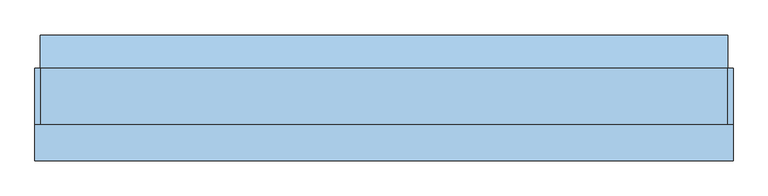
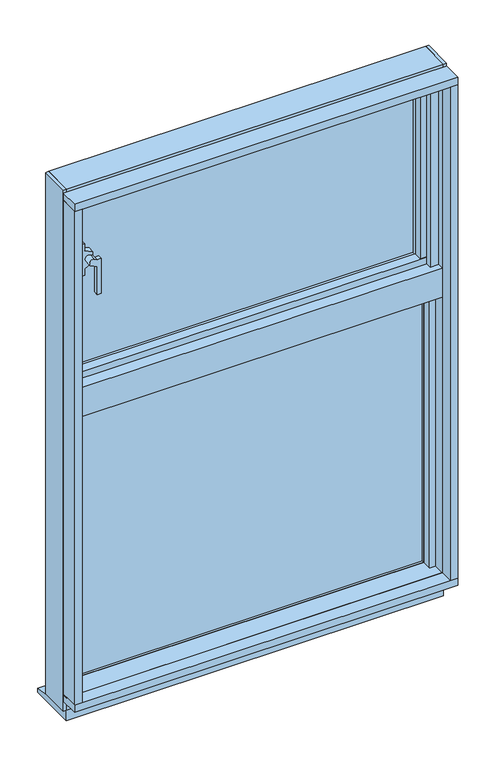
"""IFC4 building model written with IfcOpenShell, lengths in millimetres: window geometry, FNSⅡ100R_非防火_RC枠_段窓 : FIX/FIX_単."""

from ifc_helpers import new_model, si_unit, frame, origin, place, context, project, spatial, polyline, circle_curve, outline, extrude, faceted_brep, source, transform, mapped, element, save
from ifc_brep_helpers import plane_surface, cylinder_surface, advanced_brep


def window_3286e7ac(model_context):
    return source(origin(), model_context, "Body", "SolidModel", [
        advanced_brep(
        [(-532.2217924, -43.25, 2340.1128987), (-522.5780089, -43.25, 2359.8870044), (-522.5780089, -18.75, 2359.8870044), (-532.2217924, -18.75, 2340.1128987), (-513.0, -43.25, 2330.7385568), (-513.0, -18.75, 2330.7385568), (-513.0, -28.273, 2330.7385568), (-513.0, -18.75, 2355.2157929), (-513.0, -28.273, 2355.2157929), (-513.0, -43.25, 2235.0), (-499.9, -43.25, 2235.0), (-499.9, -43.25, 2355.1670227), (-513.0, -43.25, 2355.1670227), (-499.9, -28.273, 2355.1670227), (-499.9, -28.273, 2235.0), (-513.0, -28.273, 2235.0)],
        [
            (0, 1, circle_curve(frame((-527.3999338, -43.25, 2349.9999677), z_axis=(0.0, 1.0, 0.0), x_axis=(1.0, 0.0, 0.0)), 11.0002024)),
            (1, 2),
            (2, 3, circle_curve(frame((-527.3999338, -18.75, 2349.9999677), z_axis=(0.0, -1.0, 0.0), x_axis=(1.0, 0.0, 0.0)), 11.0002024)),
            (3, 0),
            (4, 0),
            (3, 5),
            (5, 6),
            (6, 4),
            (5, 7),
            (7, 8),
            (8, 6),
            (4, 9),
            (9, 10),
            (10, 11),
            (11, 12),
            (12, 1),
            (2, 7),
            (12, 8),
            (13, 14),
            (14, 15),
            (15, 6),
            (8, 13),
            (15, 9),
            (14, 10),
            (13, 11),
        ],
        [
            cylinder_surface(frame((-527.3999338, -18.75, 2349.9999677), z_axis=(0.0, -1.0, 0.0), x_axis=(1.0, 0.0, 0.0)), 11.0002024),
            plane_surface(frame((-532.2217924, -43.25, 2340.1128987), z_axis=(-0.4383427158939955, 0.0, -0.8988079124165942), x_axis=(0.0, 1.0, 0.0))),
            plane_surface(frame((-513.0, -43.25, 2330.7385568), z_axis=(1.0, 0.0, 0.0), x_axis=(0.0, 1.0, 0.0))),
            plane_surface(frame((-516.3997314, -43.25, 2349.9999677), z_axis=(0.0, -1.0, 0.0), x_axis=(0.0, 0.0, 1.0))),
            plane_surface(frame((-516.3997314, -18.75, 2349.9999677), z_axis=(0.0, 1.0, 0.0), x_axis=(0.0, 0.0, -1.0))),
            plane_surface(frame((-513.0, -43.25, 2355.2157929), z_axis=(0.43834873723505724, 0.0, 0.8988049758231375), x_axis=(0.0, 1.0, 0.0))),
            plane_surface(frame((-512.9, -28.273, 2355.1670227), z_axis=(0.0, 1.0, 0.0), x_axis=(1.0, 0.0, 0.0))),
            plane_surface(frame((-513.0, -43.25, 2355.1670227), z_axis=(-1.0, 0.0, 0.0), x_axis=(0.0, 1.0, 0.0))),
            plane_surface(frame((-513.0, -43.25, 2235.0), z_axis=(0.0, 0.0, -1.0), x_axis=(0.0, 1.0, 0.0))),
            plane_surface(frame((-499.9, -43.25, 2235.0), z_axis=(1.0, 0.0, 0.0), x_axis=(0.0, 1.0, 0.0))),
            plane_surface(frame((-499.9, -43.25, 2355.1670227), z_axis=(0.0, 0.0, 1.0), x_axis=(0.0, 1.0, 0.0))),
        ],
        [
            (0, [[1, 2, 3, 4]]),
            (1, [[5, -4, 6, 7, 8]]),
            (2, [[9, 10, 11, -7]]),
            (3, [[-1, -5, 12, 13, 14, 15, 16]]),
            (4, [[17, -9, -6, -3]]),
            (5, [[-16, 18, -10, -17, -2]]),
            (6, [[19, 20, 21, -11, 22]]),
            (7, [[23, -12, -8, -21]]),
            (8, [[-13, -23, -20, 24]]),
            (9, [[-14, -24, -19, 25]]),
            (10, [[-15, -25, -22, -18]]),
        ],
    ),
        extrude(outline(polyline([(2404.0, -553.0), (2296.0, -553.0), (2296.0, -540.0), (2318.8197636, -540.0), (2332.0649514, -513.0), (2367.9350486, -513.0), (2381.1802364, -540.0), (2404.0, -540.0), (2404.0, -553.0)])), frame((0.0, -18.75, 0.0), z_axis=(0.0, 1.0, 0.0), x_axis=(0.0, 0.0, 1.0)), (0.0, 0.0, 1.0), 21.0),
        extrude(outline(polyline([(-553.0, 25.0), (553.0, 25.0), (553.0, 19.0), (-553.0, 19.0), (-553.0, 25.0)])), frame((0.0, 0.0, 1969.0), z_axis=(0.0, 0.0, 1.0), x_axis=(1.0, 0.0, 0.0)), (0.0, 0.0, 1.0), 585.0),
        extrude(outline(polyline([(-553.0, 43.0), (553.0, 43.0), (553.0, 37.0), (-553.0, 37.0), (-553.0, 43.0)])), frame((0.0, 0.0, 1969.0), z_axis=(0.0, 0.0, 1.0), x_axis=(1.0, 0.0, 0.0)), (0.0, 0.0, 1.0), 585.0),
        faceted_brep([(-586.0, -17.0, 1929.0), (-572.2, -17.0, 1929.0), (-572.2, -17.0, 2584.0), (-586.0, -17.0, 2584.0), (-586.0, 50.5, 1929.0), (-586.0, 48.5, 2584.0), (-586.0, 48.5, 2600.0), (-586.0, 50.5, 2600.0), (-572.2, 48.5, 2584.0), (-572.2, 48.5, 2600.0), (-600.0, 50.5, 1929.0), (-600.0, 55.0, 1929.0), (-572.2, 55.0, 1929.0), (-600.0, 50.5, 2600.0), (-600.0, 55.0, 2600.0), (-572.2, 55.0, 2600.0), (-572.2, 55.0, 2554.0), (-553.0, 55.0, 2554.0), (-553.0, 55.0, 1969.0), (-572.2, 55.0, 1969.0), (-572.2, 6.0, 1969.0), (-572.2, 6.0, 2554.0), (-553.0, 6.0, 2554.0), (-553.0, 6.0, 1969.0)], [[[0, 1, 2, 3]], [[4, 0, 3, 5, 6, 7]], [[5, 8, 9, 6]], [[10, 11, 12, 1, 0, 4]], [[13, 14, 11, 10]], [[14, 15, 16, 17, 18, 19, 12, 11]], [[1, 12, 19, 20, 21, 16, 15, 9, 8, 2]], [[7, 13, 10, 4]], [[17, 22, 23, 18]], [[19, 18, 23, 20]], [[22, 21, 20, 23]], [[13, 7, 6, 9, 15, 14]], [[8, 5, 3, 2]], [[21, 22, 17, 16]]]),
        faceted_brep([(572.2, 55.0, 2600.0), (600.0, 55.0, 2600.0), (600.0, 55.0, 1929.0), (572.2, 55.0, 1929.0), (572.2, 55.0, 1969.0), (553.0, 55.0, 1969.0), (553.0, 55.0, 2554.0), (572.2, 55.0, 2554.0), (572.2, 48.5, 2584.0), (586.0, 48.5, 2584.0), (586.0, 48.5, 2600.0), (572.2, 48.5, 2600.0), (600.0, 50.5, 1929.0), (586.0, 50.5, 1929.0), (586.0, -17.0, 1929.0), (572.2, -17.0, 1929.0), (600.0, 50.5, 2600.0), (586.0, 50.5, 2600.0), (586.0, -17.0, 2584.0), (572.2, -17.0, 2584.0), (572.2, 6.0, 2554.0), (572.2, 6.0, 1969.0), (553.0, 6.0, 1969.0), (553.0, 6.0, 2554.0)], [[[0, 1, 2, 3, 4, 5, 6, 7]], [[8, 9, 10, 11]], [[12, 13, 14, 15, 3, 2]], [[16, 17, 13, 12]], [[14, 13, 17, 10, 9, 18]], [[15, 14, 18, 19]], [[3, 15, 19, 8, 11, 0, 7, 20, 21, 4]], [[1, 16, 12, 2]], [[21, 22, 5, 4]], [[23, 6, 5, 22]], [[20, 23, 22, 21]], [[16, 1, 0, 11, 10, 17]], [[9, 8, 19, 18]], [[7, 6, 23, 20]]]),
        extrude(outline(polyline([(-553.0, -22.5), (-572.2, -22.5), (-572.2, 6.0), (-553.0, 6.0), (-553.0, -22.5)])), frame((0.0, 0.0, 1972.0), z_axis=(0.0, 0.0, 1.0), x_axis=(1.0, 0.0, 0.0)), (0.0, 0.0, 1.0), 579.0),
        extrude(outline(polyline([(553.0, -22.5), (553.0, 6.0), (572.2, 6.0), (572.2, -22.5), (553.0, -22.5)])), frame((0.0, 0.0, 1972.0), z_axis=(0.0, 0.0, 1.0), x_axis=(1.0, 0.0, 0.0)), (0.0, 0.0, 1.0), 579.0),
        extrude(outline(polyline([(572.2, 6.0), (572.2, -25.0), (-572.2, -25.0), (-572.2, 6.0), (572.2, 6.0)])), frame((0.0, 0.0, 1950.0), z_axis=(0.0, 0.0, 1.0), x_axis=(1.0, 0.0, 0.0)), (0.0, 0.0, 1.0), 22.0),
        extrude(outline(polyline([(55.0, 1929.0), (-17.0, 1929.0), (-17.0, 1950.0), (6.0, 1950.0), (6.0, 1969.0), (55.0, 1969.0), (55.0, 1929.0)])), frame((-572.2, 0.0, 0.0), z_axis=(1.0, 0.0, 0.0), x_axis=(0.0, 1.0, 0.0)), (0.0, 0.0, 1.0), 1144.4),
        extrude(outline(polyline([(55.0, 2600.0), (55.0, 2554.0), (6.0, 2554.0), (6.0, 2573.2), (-17.0, 2573.2), (-17.0, 2584.0), (48.5, 2584.0), (48.5, 2600.0), (55.0, 2600.0)])), frame((-572.2, 0.0, 0.0), z_axis=(1.0, 0.0, 0.0), x_axis=(0.0, 1.0, 0.0)), (0.0, 0.0, 1.0), 1144.4),
        extrude(outline(polyline([(572.2, 6.0), (572.2, -25.0), (-572.2, -25.0), (-572.2, 6.0), (572.2, 6.0)])), frame((0.0, 0.0, 2551.0), z_axis=(0.0, 0.0, 1.0), x_axis=(1.0, 0.0, 0.0)), (0.0, 0.0, 1.0), 22.2),
        faceted_brep([(-615.0, 55.0, 2635.0), (-615.0, -45.0, 2635.0), (-615.0, -45.0, 840.0), (-615.0, 55.0, 840.0), (-615.0, 55.0, 1900.0), (-615.0, -26.0, 1900.0), (-615.0, -26.0, 2600.0), (-615.0, 55.0, 2600.0), (-625.0, -45.0, 2635.0), (-625.0, -45.0, 840.0), (-600.0, 55.0, 2600.0), (-578.0, -26.0, 2600.0), (-578.0, -21.0, 2600.0), (-600.0, -21.0, 2600.0), (-600.0, -21.0, 1900.0), (-600.0, 55.0, 1900.0), (-578.0, -21.0, 1900.0), (-578.0, -26.0, 1900.0), (-625.0, 55.0, 2635.0), (-625.0, 55.0, 840.0)], [[[0, 1, 2, 3, 4, 5, 6, 7]], [[1, 8, 9, 2]], [[10, 7, 6, 11, 12, 13]], [[10, 13, 14, 15]], [[13, 12, 16, 14]], [[12, 11, 17, 16]], [[18, 8, 1, 0]], [[19, 3, 2, 9]], [[18, 0, 7, 10, 15, 4, 3, 19]], [[8, 18, 19, 9]], [[15, 14, 16, 17, 5, 4]], [[11, 6, 5, 17]]]),
        faceted_brep([(578.0, -26.0, 2600.0), (578.0, -21.0, 2600.0), (578.0, -21.0, 1900.0), (578.0, -26.0, 1900.0), (600.0, -21.0, 2600.0), (615.0, -26.0, 2600.0), (615.0, 55.0, 2600.0), (600.0, 55.0, 2600.0), (625.0, -45.0, 2635.0), (615.0, -45.0, 2635.0), (615.0, -45.0, 840.0), (625.0, -45.0, 840.0), (625.0, 55.0, 2635.0), (615.0, 55.0, 2635.0), (615.0, 55.0, 840.0), (625.0, 55.0, 840.0), (615.0, -26.0, 1900.0), (615.0, 55.0, 1900.0), (600.0, 55.0, 1900.0), (600.0, -21.0, 1900.0)], [[[0, 1, 2, 3]], [[4, 1, 0, 5, 6, 7]], [[8, 9, 10, 11]], [[9, 8, 12, 13]], [[10, 14, 15, 11]], [[9, 13, 6, 5, 16, 17, 14, 10]], [[13, 12, 15, 14, 17, 18, 7, 6]], [[12, 8, 11, 15]], [[19, 18, 17, 16, 3, 2]], [[4, 7, 18, 19]], [[5, 0, 3, 16]], [[1, 4, 19, 2]]]),
        extrude(outline(polyline([(600.0, -65.0), (600.0, -45.0), (572.0, -45.0), (572.0, -26.0), (615.0, -26.0), (615.0, -45.0), (603.0, -45.0), (603.0, -65.0), (600.0, -65.0)])), frame((0.0, 0.0, 1950.0), z_axis=(0.0, 0.0, 1.0), x_axis=(1.0, 0.0, 0.0)), (0.0, 0.0, 1.0), 653.0),
        extrude(outline(polyline([(-615.0, -45.0), (-615.0, -26.0), (-572.0, -26.0), (-572.0, -45.0), (-600.0, -45.0), (-600.0, -65.0), (-603.0, -65.0), (-603.0, -45.0), (-615.0, -45.0)])), frame((0.0, 0.0, 1950.0), z_axis=(0.0, 0.0, 1.0), x_axis=(1.0, 0.0, 0.0)), (0.0, 0.0, 1.0), 653.0),
        extrude(outline(polyline([(-26.0, 2573.0), (-47.5, 2573.0), (-47.5, 2600.0), (-65.0, 2600.0), (-65.0, 2603.0), (-45.0, 2603.0), (-45.0, 2612.5), (-26.0, 2612.5), (-26.0, 2573.0)])), frame((-600.0, 0.0, 0.0), z_axis=(1.0, 0.0, 0.0), x_axis=(0.0, 1.0, 0.0)), (0.0, 0.0, 1.0), 1200.0),
        extrude(outline(polyline([(55.0, 2600.0), (-21.0, 2600.0), (-21.0, 2579.0), (-26.0, 2579.0), (-26.0, 2612.5), (-45.0, 2612.5), (-45.0, 2635.0), (55.0, 2635.0), (55.0, 2600.0)])), frame((-615.0, 0.0, 0.0), z_axis=(1.0, 0.0, 0.0), x_axis=(0.0, 1.0, 0.0)), (0.0, 0.0, 1.0), 1230.0),
        extrude(outline(polyline([(-45.0, 1940.0), (-45.0, 1865.0), (5.0, 1865.0), (5.0, 1850.0), (-65.0, 1850.0), (-65.0, 1950.0), (-26.0, 1950.0), (-26.0, 1940.0), (-45.0, 1940.0)])), frame((-603.0, 0.0, 0.0), z_axis=(1.0, 0.0, 0.0), x_axis=(0.0, 1.0, 0.0)), (0.0, 0.0, 1.0), 1206.0),
        extrude(outline(polyline([(55.0, 1850.0), (5.0, 1850.0), (5.0, 1865.0), (-45.0, 1865.0), (-45.0, 1940.0), (-21.0, 1940.0), (-21.0, 1915.0), (44.0, 1915.0), (44.0, 1900.0), (55.0, 1900.0), (55.0, 1850.0)])), frame((-615.0, 0.0, 0.0), z_axis=(1.0, 0.0, 0.0), x_axis=(0.0, 1.0, 0.0)), (0.0, 0.0, 1.0), 1230.0),
        extrude(outline(polyline([(-580.0, 20.6), (580.0, 20.6), (580.0, 14.6), (-580.0, 14.6), (-580.0, 20.6)])), frame((0.0, 0.0, 900.0), z_axis=(0.0, 0.0, 1.0), x_axis=(1.0, 0.0, 0.0)), (0.0, 0.0, 1.0), 950.0),
        extrude(outline(polyline([(-580.0, 38.6), (580.0, 38.6), (580.0, 32.6), (-580.0, 32.6), (-580.0, 38.6)])), frame((0.0, 0.0, 900.0), z_axis=(0.0, 0.0, 1.0), x_axis=(1.0, 0.0, 0.0)), (0.0, 0.0, 1.0), 950.0),
        extrude(outline(polyline([(-580.0, 55.0), (-580.0, 5.0), (-615.0, 5.0), (-615.0, 55.0), (-580.0, 55.0)])), frame((0.0, 0.0, 900.0), z_axis=(0.0, 0.0, 1.0), x_axis=(1.0, 0.0, 0.0)), (0.0, 0.0, 1.0), 950.0),
        extrude(outline(polyline([(615.0, 55.0), (615.0, 5.0), (580.0, 5.0), (580.0, 55.0), (615.0, 55.0)])), frame((0.0, 0.0, 900.0), z_axis=(0.0, 0.0, 1.0), x_axis=(1.0, 0.0, 0.0)), (0.0, 0.0, 1.0), 950.0),
        extrude(outline(polyline([(600.0, -65.0), (600.0, -26.5), (580.0, -26.5), (580.0, 5.0), (615.0, 5.0), (615.0, -45.0), (603.0, -45.0), (603.0, -65.0), (600.0, -65.0)])), frame((0.0, 0.0, 900.0), z_axis=(0.0, 0.0, 1.0), x_axis=(1.0, 0.0, 0.0)), (0.0, 0.0, 1.0), 950.0),
        extrude(outline(polyline([(-615.0, -45.0), (-615.0, 5.0), (-580.0, 5.0), (-580.0, -26.5), (-600.0, -26.5), (-600.0, -65.0), (-603.0, -65.0), (-603.0, -45.0), (-615.0, -45.0)])), frame((0.0, 0.0, 900.0), z_axis=(0.0, 0.0, 1.0), x_axis=(1.0, 0.0, 0.0)), (0.0, 0.0, 1.0), 950.0),
        extrude(outline(polyline([(-45.0, 884.0), (-45.0, 897.0), (-65.0, 897.0), (-65.0, 900.0), (5.0, 900.0), (5.0, 884.0), (-45.0, 884.0)])), frame((-603.0, 0.0, 0.0), z_axis=(1.0, 0.0, 0.0), x_axis=(0.0, 1.0, 0.0)), (0.0, 0.0, 1.0), 1206.0),
        extrude(outline(polyline([(55.0, 840.0), (-45.0, 840.0), (-45.0, 884.0), (5.0, 884.0), (5.0, 900.0), (55.0, 900.0), (55.0, 870.0), (36.0, 870.0), (36.0, 850.0), (55.0, 850.0), (55.0, 840.0)])), frame((-615.0, 0.0, 0.0), z_axis=(1.0, 0.0, 0.0), x_axis=(0.0, 1.0, 0.0)), (0.0, 0.0, 1.0), 1230.0),
        extrude(outline(polyline([(-45.0, 897.0), (-45.0, 875.0), (-110.0, 875.0), (-110.0, 900.0), (-65.0, 900.0), (-65.0, 897.0), (-45.0, 897.0)])), frame((-625.0, 0.0, 0.0), z_axis=(1.0, 0.0, 0.0), x_axis=(0.0, 1.0, 0.0)), (0.0, 0.0, 1.0), 1250.0),
        extrude(outline(polyline([(45.0, 840.0), (55.0, 840.0), (55.0, 828.4285714), (45.0, 830.0), (45.0, 840.0)])), frame((-615.0, 0.0, 0.0), z_axis=(1.0, 0.0, 0.0), x_axis=(0.0, 1.0, 0.0)), (0.0, 0.0, 1.0), 1230.0),
        extrude(outline(polyline([(-45.0, 804.0), (-45.0, 840.0), (45.0, 840.0), (45.0, 830.0), (115.0, 819.0), (115.0, 804.0), (-45.0, 804.0)])), frame((-615.0, 0.0, 0.0), z_axis=(1.0, 0.0, 0.0), x_axis=(0.0, 1.0, 0.0)), (0.0, 0.0, 1.0), 1230.0),
        extrude(outline(polyline([(600.0, -110.0), (600.0, -65.0), (603.0, -65.0), (603.0, -45.0), (625.0, -45.0), (625.0, -110.0), (600.0, -110.0)])), frame((0.0, 0.0, 900.0), z_axis=(0.0, 0.0, 1.0), x_axis=(1.0, 0.0, 0.0)), (0.0, 0.0, 1.0), 1700.0),
        extrude(outline(polyline([(-603.0, -45.0), (-603.0, -65.0), (-600.0, -65.0), (-600.0, -110.0), (-625.0, -110.0), (-625.0, -45.0), (-603.0, -45.0)])), frame((0.0, 0.0, 900.0), z_axis=(0.0, 0.0, 1.0), x_axis=(1.0, 0.0, 0.0)), (0.0, 0.0, 1.0), 1700.0),
        extrude(outline(polyline([(625.0, -45.0), (625.0, -110.0), (600.0, -110.0), (600.0, -65.0), (603.0, -65.0), (603.0, -45.0), (625.0, -45.0)])), frame((0.0, 0.0, 900.0), z_axis=(0.0, 0.0, 1.0), x_axis=(1.0, 0.0, 0.0)), (0.0, 0.0, 1.0), 1700.0),
        extrude(outline(polyline([(-603.0, -45.0), (-603.0, -65.0), (-600.0, -65.0), (-600.0, -110.0), (-625.0, -110.0), (-625.0, -45.0), (-603.0, -45.0)])), frame((0.0, 0.0, 900.0), z_axis=(0.0, 0.0, 1.0), x_axis=(1.0, 0.0, 0.0)), (0.0, 0.0, 1.0), 1700.0),
        extrude(outline(polyline([(-45.0, 2625.0), (-45.0, 2603.0), (-65.0, 2603.0), (-65.0, 2600.0), (-110.0, 2600.0), (-110.0, 2625.0), (-45.0, 2625.0)])), frame((-625.0, 0.0, 0.0), z_axis=(1.0, 0.0, 0.0), x_axis=(0.0, 1.0, 0.0)), (0.0, 0.0, 1.0), 1250.0),
    ])


if __name__ == "__main__":
    model = new_model("IFC4")
    model_context = context("Model", 3, world=origin())
    ifc_project = project(units=[si_unit("LENGTHUNIT", "METRE", prefix="MILLI")], contexts=[model_context])
    site = spatial("IfcSite", under=ifc_project)
    building = spatial("IfcBuilding", under=site)
    placement = place(None, origin())
    window_shape = window_3286e7ac(model_context)
    element("IfcWindow", 1, ObjectType="FNSⅡ100R_非防火_RC枠_段窓 : FIX/FIX_単", at=placement, inside=building, context=model_context, shape_type="MappedRepresentation", body=[
        mapped(window_shape, transform((0.0, 0.0, 0.0), x_axis=(1.0, 0.0, 0.0), y_axis=(0.0, 1.0, 0.0), z_axis=(0.0, 0.0, 1.0))),
    ])
    save(model, "model.ifc")
